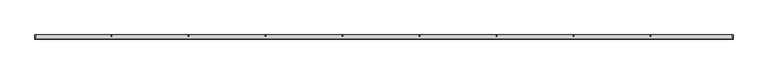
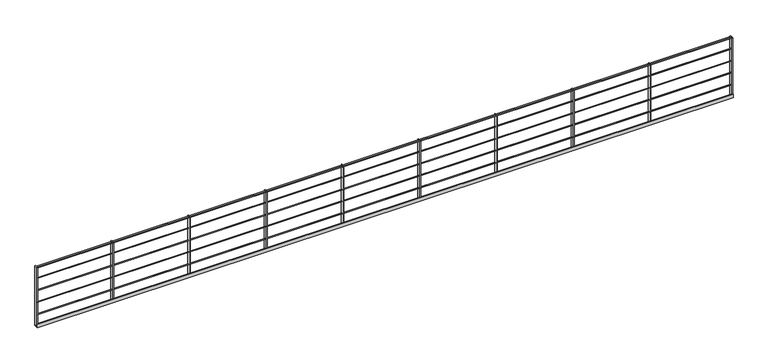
"""IFC4 building model written with IfcOpenShell, lengths in millimetres: proxy geometry, ARQ-BAR- Pasarela cubierta : ARQ-BAR- Pasarela cubierta."""

from ifc_helpers import new_model, si_unit, point, frame, frame_2d, origin, origin_with_axes, place, context, project, spatial, polyline, circle_curve, trimmed, segment, composite_curve, outline, extrude, source, transform, mapped, element, save


def generic_models_729d2b99(model_context):
    return source(origin(), model_context, "Body", "SweptSolid", [
        extrude(outline(polyline([(57.0, 858.6846171), (57.0, 845.4440821), (7.0, 868.759465), (7.0, 882.0), (57.0, 858.6846171)])), frame((12.0, 0.0, 0.0), z_axis=(1.0, 0.0, 0.0), x_axis=(0.0, 1.0, 0.0)), (0.0, 0.0, 1.0), 9586.0),
        extrude(outline(composite_curve([segment(trimmed(circle_curve(frame_2d((32.5857649, 700.0)), 6.0), [point((26.5857649, 700.0))], [point((38.5857649, 700.0))], False, "CARTESIAN"), True, "CONTINUOUS"), segment(trimmed(circle_curve(frame_2d((32.5857649, 700.0)), 6.0), [point((38.5857649, 700.0))], [point((26.5857649, 700.0))], False, "CARTESIAN"), True, "CONTINUOUS")], self_intersect=False)), frame((12.0, 0.0, 0.0), z_axis=(1.0, 0.0, 0.0), x_axis=(0.0, 1.0, 0.0)), (0.0, 0.0, 1.0), 9586.0),
        extrude(outline(composite_curve([segment(trimmed(circle_curve(frame_2d((32.5857649, 520.0)), 6.0), [point((26.5857649, 520.0))], [point((38.5857649, 520.0))], False, "CARTESIAN"), True, "CONTINUOUS"), segment(trimmed(circle_curve(frame_2d((32.5857649, 520.0)), 6.0), [point((38.5857649, 520.0))], [point((26.5857649, 520.0))], False, "CARTESIAN"), True, "CONTINUOUS")], self_intersect=False)), frame((12.0, 0.0, 0.0), z_axis=(1.0, 0.0, 0.0), x_axis=(0.0, 1.0, 0.0)), (0.0, 0.0, 1.0), 9586.0),
        extrude(outline(composite_curve([segment(trimmed(circle_curve(frame_2d((32.5857649, 350.0)), 6.0), [point((26.5857649, 350.0))], [point((38.5857649, 350.0))], False, "CARTESIAN"), True, "CONTINUOUS"), segment(trimmed(circle_curve(frame_2d((32.5857649, 350.0)), 6.0), [point((38.5857649, 350.0))], [point((26.5857649, 350.0))], False, "CARTESIAN"), True, "CONTINUOUS")], self_intersect=False)), frame((12.0, 0.0, 0.0), z_axis=(1.0, 0.0, 0.0), x_axis=(0.0, 1.0, 0.0)), (0.0, 0.0, 1.0), 9586.0),
        extrude(outline(composite_curve([segment(trimmed(circle_curve(frame_2d((32.5857649, 170.0)), 6.0), [point((26.5857649, 170.0))], [point((38.5857649, 170.0))], False, "CARTESIAN"), True, "CONTINUOUS"), segment(trimmed(circle_curve(frame_2d((32.5857649, 170.0)), 6.0), [point((38.5857649, 170.0))], [point((26.5857649, 170.0))], False, "CARTESIAN"), True, "CONTINUOUS")], self_intersect=False)), frame((12.0, 0.0, 0.0), z_axis=(1.0, 0.0, 0.0), x_axis=(0.0, 1.0, 0.0)), (0.0, 0.0, 1.0), 9586.0),
        extrude(outline(polyline([(9610.0, 57.0), (9610.0, 7.0), (9598.0, 7.0), (9598.0, 57.0), (9610.0, 57.0)])), origin_with_axes(), (0.0, 0.0, 1.0), 870.0),
        extrude(outline(polyline([(8480.0, 57.0), (8480.0, 7.0), (8468.0, 7.0), (8468.0, 57.0), (8480.0, 57.0)])), origin_with_axes(), (0.0, 0.0, 1.0), 870.0),
        extrude(outline(polyline([(7420.0, 57.0), (7420.0, 7.0), (7408.0, 7.0), (7408.0, 57.0), (7420.0, 57.0)])), origin_with_axes(), (0.0, 0.0, 1.0), 870.0),
        extrude(outline(polyline([(6360.0, 57.0), (6360.0, 7.0), (6348.0, 7.0), (6348.0, 57.0), (6360.0, 57.0)])), origin_with_axes(), (0.0, 0.0, 1.0), 870.0),
        extrude(outline(polyline([(5300.0, 57.0), (5300.0, 7.0), (5288.0, 7.0), (5288.0, 57.0), (5300.0, 57.0)])), origin_with_axes(), (0.0, 0.0, 1.0), 870.0),
        extrude(outline(polyline([(4240.0, 57.0), (4240.0, 7.0), (4228.0, 7.0), (4228.0, 57.0), (4240.0, 57.0)])), origin_with_axes(), (0.0, 0.0, 1.0), 870.0),
        extrude(outline(polyline([(3180.0, 57.0), (3180.0, 7.0), (3168.0, 7.0), (3168.0, 57.0), (3180.0, 57.0)])), origin_with_axes(), (0.0, 0.0, 1.0), 870.0),
        extrude(outline(polyline([(2120.0, 57.0), (2120.0, 7.0), (2108.0, 7.0), (2108.0, 57.0), (2120.0, 57.0)])), origin_with_axes(), (0.0, 0.0, 1.0), 870.0),
        extrude(outline(polyline([(1060.0, 57.0), (1060.0, 7.0), (1048.0, 7.0), (1048.0, 57.0), (1060.0, 57.0)])), origin_with_axes(), (0.0, 0.0, 1.0), 870.0),
        extrude(outline(polyline([(12.0, 57.0), (12.0, 7.0), (0.0, 7.0), (0.0, 57.0), (12.0, 57.0)])), origin_with_axes(), (0.0, 0.0, 1.0), 870.0),
        extrude(outline(polyline([(0.0, 0.0), (0.0, 50.0), (7.0, 50.0), (7.0, 7.0), (50.0, 7.0), (50.0, 0.0), (0.0, 0.0)])), frame((0.0, 0.0, 0.0), z_axis=(1.0, 0.0, 0.0), x_axis=(0.0, 1.0, 0.0)), (0.0, 0.0, 1.0), 9610.0),
    ])


if __name__ == "__main__":
    model = new_model("IFC4")
    model_context = context("Model", 3, world=origin())
    ifc_project = project(units=[si_unit("LENGTHUNIT", "METRE", prefix="MILLI")], contexts=[model_context])
    site = spatial("IfcSite", under=ifc_project)
    building = spatial("IfcBuilding", under=site)
    placement = place(None, origin())
    generic_models_shape = generic_models_729d2b99(model_context)
    element("IfcBuildingElementProxy", 1, Name="ARQ-BAR- Pasarela cubierta : ARQ-BAR- Pasarela cubierta", ObjectType="ARQ-BAR- Pasarela cubierta : ARQ-BAR- Pasarela cubierta", at=placement, inside=building, context=model_context, shape_type="MappedRepresentation", body=[
        mapped(generic_models_shape, transform((0.0, 0.0, 0.0), x_axis=(1.0, 0.0, 0.0), y_axis=(0.0, 1.0, 0.0), z_axis=(0.0, 0.0, 1.0))),
    ])
    save(model, "model.ifc")
